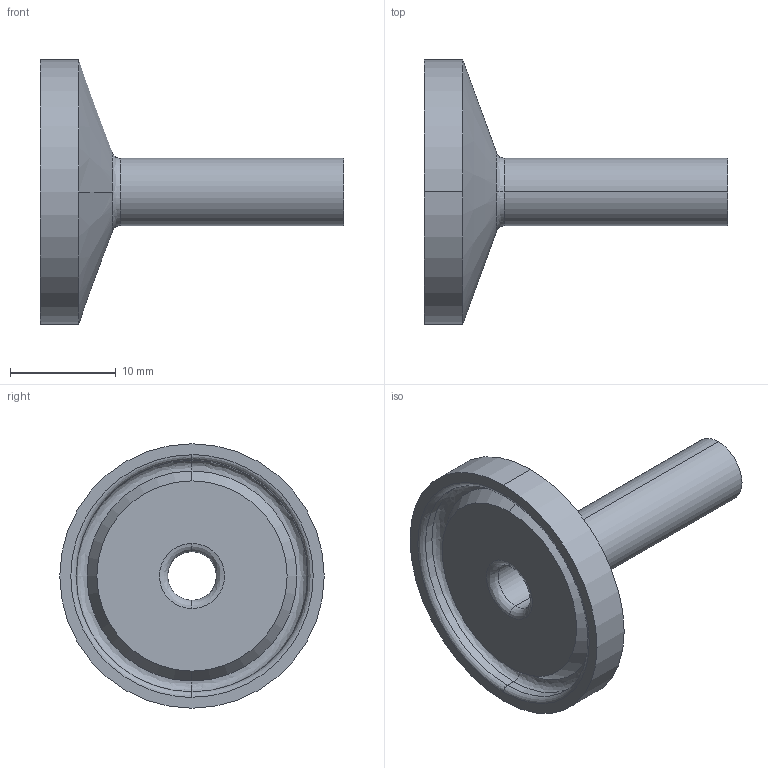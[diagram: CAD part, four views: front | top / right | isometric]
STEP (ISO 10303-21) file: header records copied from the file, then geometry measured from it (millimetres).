
FILE_DESCRIPTION (( 'STEP AP214' ), '1' );
FILE_NAME ('TEG14BM76L.25.STEP', '2016-05-23T04:03:38', ( 'eran' ), ( '' ), 'SwSTEP 2.0', 'SolidWorks 2016', '' );
FILE_SCHEMA (( 'AUTOMOTIVE_DESIGN' ));
Length unit declared in the file: millimetre
Products named in the file (1): TEG14BM76L.25
Bounding box: 28.7 x 24.99 x 24.99 mm (x, y, z)
Volume: 2319.8 mm3; surface area: 2240.7 mm2
Topology: 1 solids, 1 shells, 23 faces, 50 edges, 30 vertices
Faces by surface type: bspline 8, cylinder 8, cone 4, plane 3
Entity records: 764 total; most frequent: CARTESIAN_POINT 236, DIRECTION 112, ORIENTED_EDGE 100, EDGE_CURVE 50, AXIS2_PLACEMENT_3D 50, CIRCLE 34, VERTEX_POINT 30, EDGE_LOOP 26
